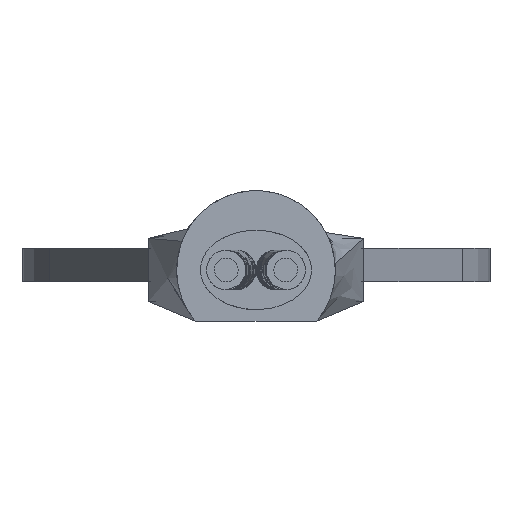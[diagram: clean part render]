
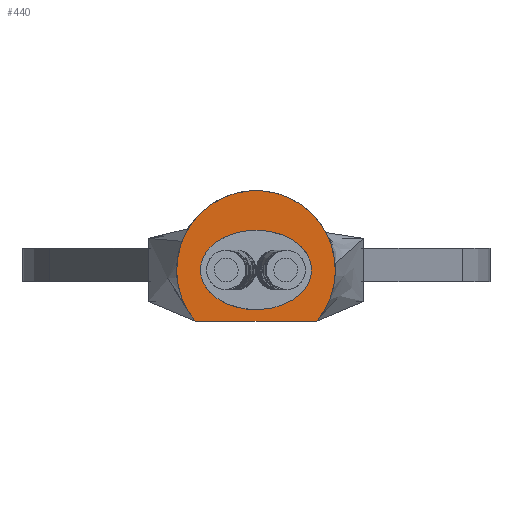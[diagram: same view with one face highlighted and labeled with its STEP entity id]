
A CAD part, left-side view. The second image highlights one B-rep face of the part: STEP entity #440.
In plain terms, the highlighted planar face has unit normal (-1, 0, 0).
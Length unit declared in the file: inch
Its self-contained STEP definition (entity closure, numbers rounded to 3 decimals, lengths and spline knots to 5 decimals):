
#13=ELLIPSE('',#492,0.07,0.05);
#14=ELLIPSE('',#493,0.07,0.05);
#64=FACE_BOUND('',#133,.T.);
#77=PLANE('',#499);
#101=FACE_OUTER_BOUND('',#132,.T.);
#132=EDGE_LOOP('',(#374,#375));
#133=EDGE_LOOP('',(#376,#377));
#170=LINE('',#826,#194);
#194=VECTOR('',#587,0.3937);
#206=CIRCLE('',#497,0.1);
#231=VERTEX_POINT('',#808);
#232=VERTEX_POINT('',#809);
#236=VERTEX_POINT('',#819);
#237=VERTEX_POINT('',#821);
#278=EDGE_CURVE('',#231,#232,#13,.T.);
#279=EDGE_CURVE('',#232,#231,#14,.T.);
#284=EDGE_CURVE('',#237,#236,#206,.T.);
#287=EDGE_CURVE('',#236,#237,#170,.T.);
#374=ORIENTED_EDGE('',*,*,#284,.T.);
#375=ORIENTED_EDGE('',*,*,#287,.T.);
#376=ORIENTED_EDGE('',*,*,#278,.T.);
#377=ORIENTED_EDGE('',*,*,#279,.T.);
#440=ADVANCED_FACE('',(#101,#64),#77,.F.);
#492=AXIS2_PLACEMENT_3D('',#810,#569,#570);
#493=AXIS2_PLACEMENT_3D('',#811,#571,#572);
#497=AXIS2_PLACEMENT_3D('',#822,#581,#582);
#499=AXIS2_PLACEMENT_3D('',#827,#588,#589);
#569=DIRECTION('center_axis',(1.,0.,0.));
#570=DIRECTION('ref_axis',(0.,1.,0.));
#571=DIRECTION('center_axis',(1.,0.,0.));
#572=DIRECTION('ref_axis',(0.,1.,0.));
#581=DIRECTION('center_axis',(-1.,0.,0.));
#582=DIRECTION('ref_axis',(0.,-0.762,-0.648));
#587=DIRECTION('',(0.,-1.,0.));
#588=DIRECTION('center_axis',(1.,0.,0.));
#589=DIRECTION('ref_axis',(0.,0.,-1.));
#808=CARTESIAN_POINT('',(-1.09499,-0.00127,0.04375));
#809=CARTESIAN_POINT('',(-1.09499,-0.07127,-0.00625));
#810=CARTESIAN_POINT('Origin',(-1.09499,-0.00127,-0.00625));
#811=CARTESIAN_POINT('Origin',(-1.09499,-0.00127,-0.00625));
#819=CARTESIAN_POINT('',(-1.09499,0.07494,-0.071));
#821=CARTESIAN_POINT('',(-1.09499,-0.07747,-0.071));
#822=CARTESIAN_POINT('Origin',(-1.09499,-0.00127,-0.00625));
#826=CARTESIAN_POINT('',(-1.09499,0.07494,-0.071));
#827=CARTESIAN_POINT('Origin',(-1.09499,-0.00127,-0.00309));
